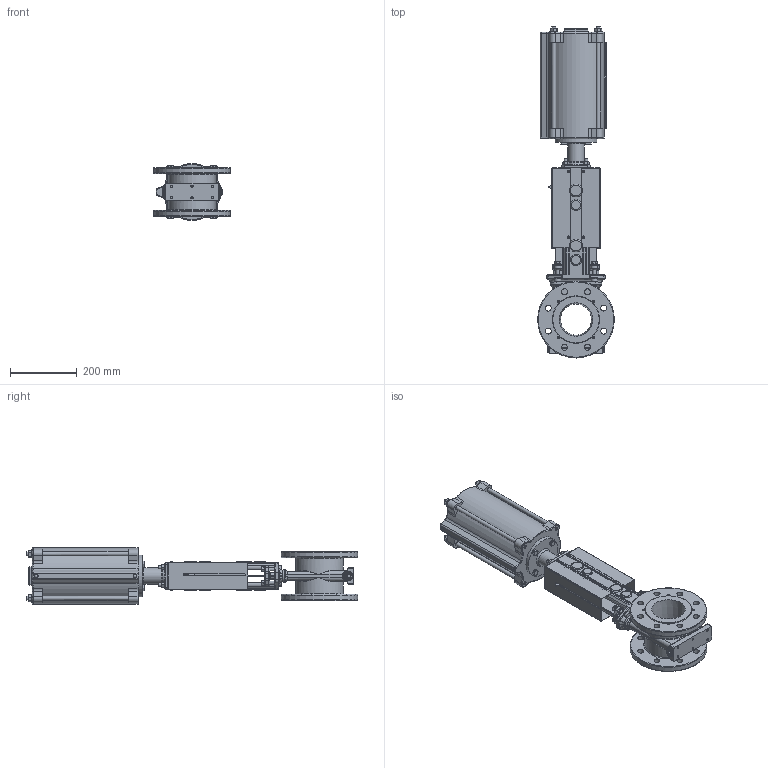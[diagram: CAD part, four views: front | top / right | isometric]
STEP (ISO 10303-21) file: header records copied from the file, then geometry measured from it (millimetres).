
FILE_DESCRIPTION(/* description */ ('','CAx-IF Rec.Pracs.---Representation and Presentation of Product Manufacturing Information (PMI)---4.0---2014-10-13'),/* implementation_level */ '2;1');
FILE_NAME(/* name */ 'F:\Emir\3D-block special\SLV\SLF-DN100-PN10-FRSC160-165.stp',/* time_stamp */ '2018-09-04T09:53:07+02:00',/* author */ ('emimus'),/* organization */ (''),/* preprocessor_version */ 'ST-DEVELOPER v17.2',/* originating_system */ 'Autodesk Inventor 2019',/* authorisation */ '');
FILE_SCHEMA (('AP242_MANAGED_MODEL_BASED_3D_ENGINEERING_MIM_LF { 1 0 10303 442 1 1 4 }'));
Products named in the file (1): SLF-DN100-PN10-FRSC160-165
Bounding box: 230 x 994.5 x 170 mm (x, y, z)
Volume: 6984096.9 mm3; surface area: 1534545.1 mm2
Topology: 3 solids, 3 shells, 2610 faces, 6611 edges, 4091 vertices
Faces by surface type: plane 916, cylinder 648, bspline 379, cone 286, torus 267, sphere 114
Full cylindrical faces by diameter (mm): 3 x10, 3.5 x8, 3.6 x8, 4 x6, 4.134 x12, 4.5 x4, 6 x1, 6.75 x6, 7 x8, 8 x2, 8.376 x2, 8.88 x1, 9 x2, 9.5 x4, 10 x34, 10.5 x8, 11 x4, 11.445 x2, 12 x16, 13 x5, 14.63 x4, 15 x4, 16 x1, 17.7 x1, 18 x19, 19 x4, 20 x9, 20.5 x1, 23 x4, 24 x8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
Entity records: 102612 total; most frequent: CARTESIAN_POINT 41147, DIRECTION 13080, ORIENTED_EDGE 13070, EDGE_CURVE 6535, AXIS2_PLACEMENT_3D 5555, VERTEX_POINT 4091, CIRCLE 2949, EDGE_LOOP 2904
